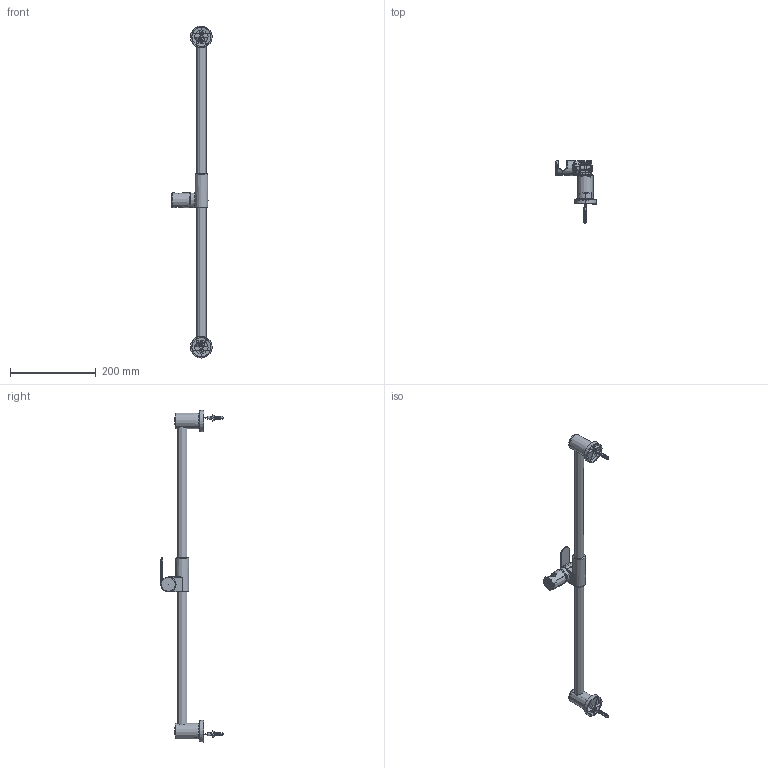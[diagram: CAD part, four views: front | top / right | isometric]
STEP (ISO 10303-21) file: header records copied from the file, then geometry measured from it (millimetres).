
FILE_DESCRIPTION(/* description */ (''),/* implementation_level */ '2;1');
FILE_NAME(/* name */ 'X:\Utilisateurs\4855 3D.stp',/* time_stamp */ '2017-04-10T09:50:30-04:00',/* author */ ('simono'),/* organization */ (''),/* preprocessor_version */ 'ST-DEVELOPER v15.6',/* originating_system */ 'Autodesk Inventor 2015',/* authorisation */ '');
FILE_SCHEMA (('AUTOMOTIVE_DESIGN { 1 0 10303 214 3 1 1 }'));
Length unit declared in the file: millimetre
Products named in the file (26): 4921-1; 4921-2; 4921-3; 4921-4; 4921-5; 4921-6; 4921-7; 4921-8; 4921-9; 4921-10; 4921-11; 4921-12; 4921-13; 4921-14; 4921-15; 4921-16; 4921-17; 4921-18; 4921; 034-850; 392-419; 390-454; 039-942; 039-941; 4955; 4855
Assembly tree (26 placements, depth 3):
  4855
    4921
      4921-1
      4921-2
      4921-3
      4921-4
      4921-5
      4921-6
      4921-7
      4921-8
      4921-9
      4921-10
      4921-11
      4921-12
      4921-13
      4921-14
      4921-15
      4921-16
      4921-17
      4921-18
    034-850
    4955  x2
      392-419
      390-454
      039-942
      039-941
Bounding box: 94.31 x 145.65 x 774.74 mm (x, y, z)
Volume: 134614.5 mm3; surface area: 243636.3 mm2
Topology: 26 solids, 27 shells, 1933 faces, 5262 edges, 3420 vertices
Faces by surface type: plane 1062, cylinder 366, cone 223, bspline 195, torus 66, sphere 21
Full cylindrical faces by diameter (mm): 2.3 x4, 3 x3, 3.2 x2, 3.3 x1, 3.4 x2, 3.5 x2, 4.4 x1, 4.5 x2, 5 x116, 6 x1, 6.3 x1, 6.6 x2, 7.5 x2, 9 x1, 9.3 x2, 10.1 x2, 10.3 x1, 11.1 x1, 11.3 x1, 12.5 x1, 15 x1, 21 x1, 22 x1, 22.4 x2, 24.4 x1, 26.8 x1, 28.3 x1, 30 x1
Entity records: 89104 total; most frequent: CARTESIAN_POINT 50424, ORIENTED_EDGE 8344, DIRECTION 7372, EDGE_CURVE 4170, VERTEX_POINT 2748, AXIS2_PLACEMENT_3D 2551, LINE 2270, VECTOR 2270
